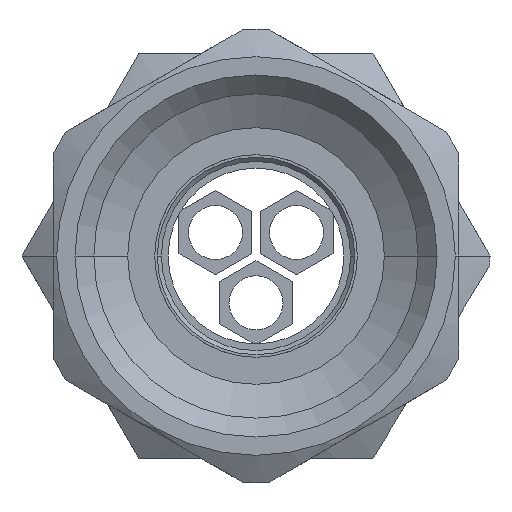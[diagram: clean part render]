
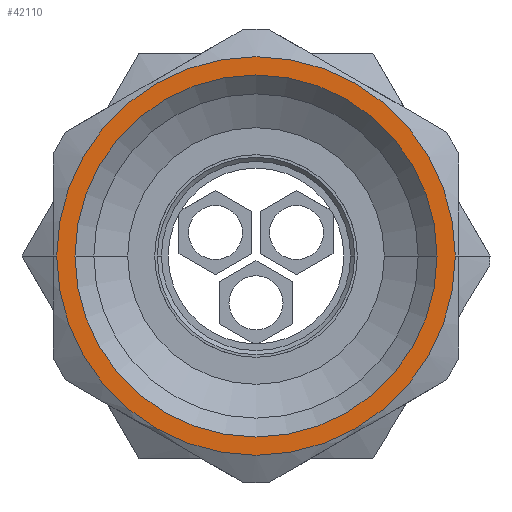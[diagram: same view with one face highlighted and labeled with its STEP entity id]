
A CAD part, left-side view. The second image highlights one B-rep face of the part: STEP entity #42110.
In plain terms, the highlighted planar face has unit normal (-1, 0, 0) as drawn and (1, 0, 0) by its records, which use the part's own axes.
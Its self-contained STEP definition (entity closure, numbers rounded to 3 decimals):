
#39340=CARTESIAN_POINT('',(244.549,-1.023,
0.));
#39350=VERTEX_POINT('',#39340);
#41720=CARTESIAN_POINT('',(244.549,28.477,
0.));
#41730=VERTEX_POINT('',#41720);
#41760=CARTESIAN_POINT('',(244.549,13.727,
0.));
#41770=DIRECTION('',(-1.,0.,0.));
#41780=DIRECTION('',(0.,1.,0.));
#41790=AXIS2_PLACEMENT_3D('',#41760,#41770,#41780);
#41800=CIRCLE('',#41790,14.75);
#41810=EDGE_CURVE('',#39350,#41730,#41800,.T.);
#41860=CARTESIAN_POINT('',(244.549,27.802,
0.));
#41870=DIRECTION('',(1.,0.,0.));
#41880=DIRECTION('',(0.,-1.,0.));
#41890=AXIS2_PLACEMENT_3D('',#41860,#41870,#41880);
#41900=PLANE('',#41890);
#41910=CARTESIAN_POINT('',(244.549,13.727,
0.));
#41920=DIRECTION('',(-1.,0.,0.));
#41930=DIRECTION('',(0.,1.,0.));
#41940=AXIS2_PLACEMENT_3D('',#41910,#41920,#41930);
#41950=CIRCLE('',#41940,13.4);
#41960=CARTESIAN_POINT('',(244.549,27.127,
0.));
#41970=VERTEX_POINT('',#41960);
#41980=CARTESIAN_POINT('',(244.549,0.327,
0.));
#41990=VERTEX_POINT('',#41980);
#42000=EDGE_CURVE('',#41970,#41990,#41950,.T.);
#42010=ORIENTED_EDGE('',*,*,#42000,.T.);
#42020=EDGE_CURVE('',#41990,#41970,#41950,.T.);
#42030=ORIENTED_EDGE('',*,*,#42020,.T.);
#42040=EDGE_LOOP('',(#42030,#42010));
#42050=FACE_BOUND('',#42040,.T.);
#42060=EDGE_CURVE('',#41730,#39350,#41800,.T.);
#42070=ORIENTED_EDGE('',*,*,#42060,.F.);
#42080=ORIENTED_EDGE('',*,*,#41810,.F.);
#42090=EDGE_LOOP('',(#42080,#42070));
#42100=FACE_OUTER_BOUND('',#42090,.T.);
#42110=ADVANCED_FACE('',(#42050,#42100),#41900,.T.);
